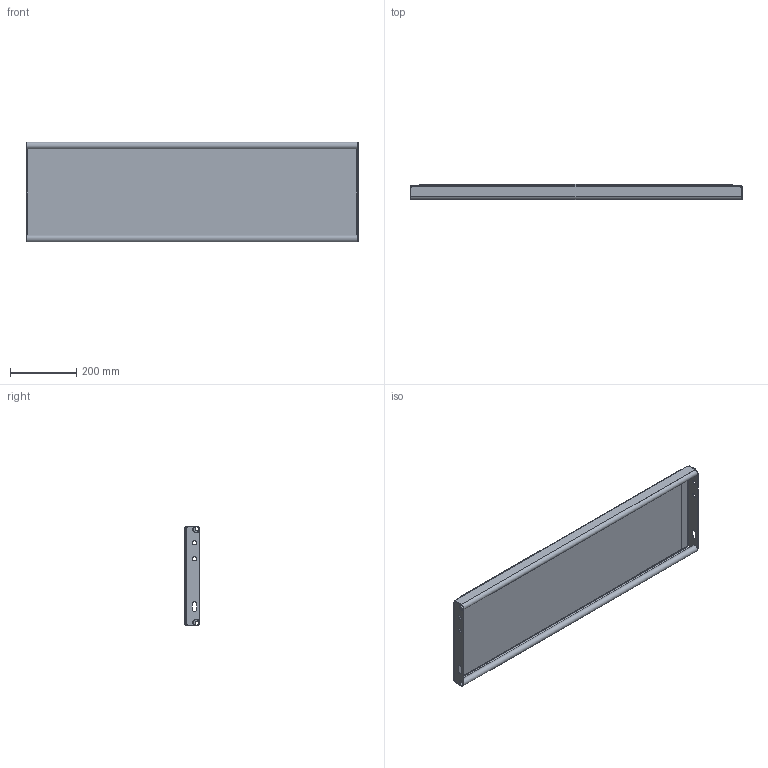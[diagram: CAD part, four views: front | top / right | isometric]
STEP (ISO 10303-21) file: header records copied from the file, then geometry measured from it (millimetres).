
FILE_DESCRIPTION (( 'STEP AP214' ), '1' );
FILE_NAME ('OPTIMO-Tread-Achil-O2-1000x300x45x2-st240-F100540100_plain.STEP', '2021-03-18T12:09:10', ( '' ), ( '' ), 'SwSTEP 2.0', 'SolidWorks 2021', '' );
FILE_SCHEMA (( 'AUTOMOTIVE_DESIGN' ));
Length unit declared in the file: millimetre
Products named in the file (1): OPTIMO-Tread-Achil-O2-1000x300x45x2-st240-F100540100_plain
Bounding box: 1000 x 45 x 300 mm (x, y, z)
Volume: 1774093.3 mm3; surface area: 965063.9 mm2
Topology: 1 solids, 1 shells, 252 faces, 652 edges, 420 vertices
Faces by surface type: plane 173, cylinder 40, bspline 39
Entity records: 10072 total; most frequent: CARTESIAN_POINT 4116, ORIENTED_EDGE 1304, DIRECTION 1050, EDGE_CURVE 652, LINE 494, VECTOR 494, VERTEX_POINT 420, EDGE_LOOP 282
